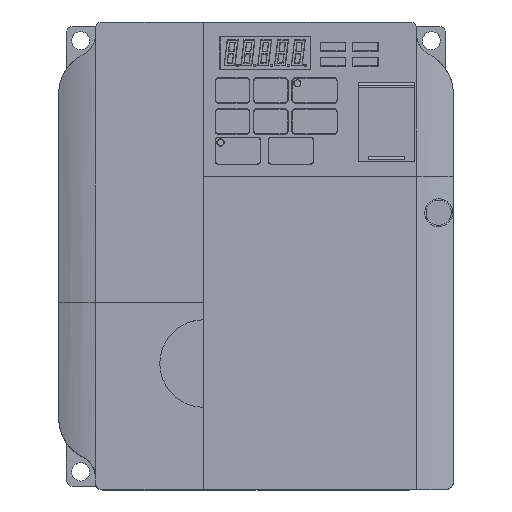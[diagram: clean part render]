
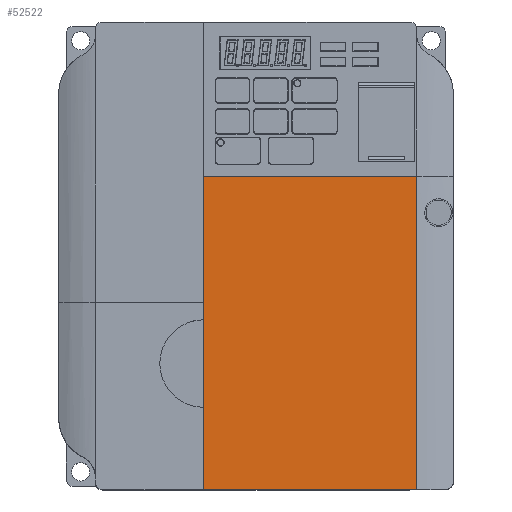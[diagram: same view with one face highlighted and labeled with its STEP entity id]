
A CAD part, top view. The second image highlights one B-rep face of the part: STEP entity #52522.
In plain terms, the highlighted planar face has unit normal (0, 0, 1).
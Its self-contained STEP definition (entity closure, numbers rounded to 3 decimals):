
#52022=DIRECTION('',(0.,-1.,0.));
#52023=VECTOR('',#52022,85.8);
#52024=CARTESIAN_POINT('',(-6.,10.,7.919));
#52025=LINE('',#52024,#52023);
#52106=DIRECTION('',(-1.,0.,0.));
#52107=VECTOR('',#52106,58.35);
#52108=CARTESIAN_POINT('',(-6.,-75.8,7.919));
#52109=LINE('',#52108,#52107);
#52115=DIRECTION('',(0.,1.,0.));
#52116=VECTOR('',#52115,85.8);
#52117=CARTESIAN_POINT('',(-64.35,-75.8,7.919));
#52118=LINE('',#52117,#52116);
#52132=DIRECTION('',(1.,0.,0.));
#52133=VECTOR('',#52132,58.35);
#52134=CARTESIAN_POINT('',(-64.35,10.,7.919));
#52135=LINE('',#52134,#52133);
#52303=CARTESIAN_POINT('',(-6.,10.,7.919));
#52305=VERTEX_POINT('',#52303);
#52307=CARTESIAN_POINT('',(-6.,-75.8,7.919));
#52308=VERTEX_POINT('',#52307);
#52316=CARTESIAN_POINT('',(-64.35,-75.8,7.919));
#52317=VERTEX_POINT('',#52316);
#52318=CARTESIAN_POINT('',(-64.35,10.,7.919));
#52319=VERTEX_POINT('',#52318);
#52511=CARTESIAN_POINT('',(-30.272,-32.779,7.919));
#52512=DIRECTION('',(0.,0.,1.));
#52513=DIRECTION('',(1.,0.,0.));
#52514=AXIS2_PLACEMENT_3D('',#52511,#52512,#52513);
#52515=PLANE('',#52514);
#52516=ORIENTED_EDGE('',*,*,#52491,.T.);
#52517=ORIENTED_EDGE('',*,*,#52506,.T.);
#52518=ORIENTED_EDGE('',*,*,#52392,.T.);
#52519=ORIENTED_EDGE('',*,*,#52476,.T.);
#52520=EDGE_LOOP('',(#52516,#52517,#52518,#52519));
#52521=FACE_OUTER_BOUND('',#52520,.F.);
#52522=ADVANCED_FACE('',(#52521),#52515,.T.);
#52392=EDGE_CURVE('',#52305,#52308,#52025,.T.);
#52476=EDGE_CURVE('',#52308,#52317,#52109,.T.);
#52491=EDGE_CURVE('',#52317,#52319,#52118,.T.);
#52506=EDGE_CURVE('',#52319,#52305,#52135,.T.);
